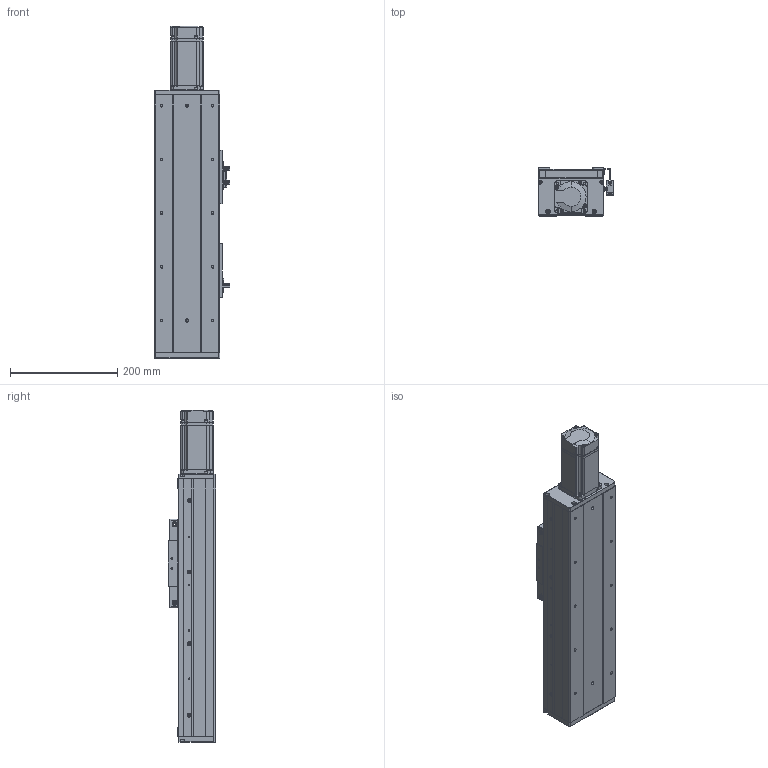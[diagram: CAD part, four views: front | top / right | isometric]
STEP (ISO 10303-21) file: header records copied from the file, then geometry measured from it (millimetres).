
FILE_DESCRIPTION (( 'STEP AP203' ), '1' );
FILE_NAME ('RY120F-L1620-300-MK.SLDASM_200.step', '2021-03-02T06:01:44', ( '盈信电脑' ), ( '东莞市道滘镇水果街19号' ), 'SwSTEP 2.0', 'SolidWorks 2012', '' );
FILE_SCHEMA (( 'CONFIG_CONTROL_DESIGN' ));
Length unit declared in the file: millimetre
Products named in the file (18): RY120F-臏賑輸 16蹟譫; FY120F詩湍揤踡輸; RY120F-L1620-300-MK.SLDASM_200; 滅袉蝶18-28; RY80俋离覜茼え; 672嫖萇羲壽假蚾釱; 覜茼ん672; RY120F-詩湍幗謫粣; 滅袉蝶18-24; RY120F綴裔啣(臏璃ㄘ; RY120F祥凄詩滅鳥裔; RY120F眻蟀ヶ裔啣; RY120F-臏賑輸奻釱; 15; 侂狟400W侜督萇儂; RY120F-300-倰第裔啣_200; RY120F滅鳥詩湍-300-MK_200; RY120F-300-倰第菁釱_200
Assembly tree (23 placements, depth 3):
  RY120F-L1620-300-MK.SLDASM_200
    RY120F-300-倰第菁釱_200
    RY120F-300-倰第裔啣_200  x2
    RY120F滅鳥詩湍-300-MK_200
    RY120F-臏賑輸奻釱
    侂狟400W侜督萇儂
      15
    RY120F眻蟀ヶ裔啣
    RY120F祥凄詩滅鳥裔
    滅袉蝶18-24
    RY120F綴裔啣(臏璃ㄘ
    RY120F-詩湍幗謫粣
    覜茼ん672  x3
    672嫖萇羲壽假蚾釱  x2
    RY80俋离覜茼え
    FY120F詩湍揤踡輸  x2
    RY120F-臏賑輸 16蹟譫
    滅袉蝶18-28  x2
Bounding box: 140.35 x 89 x 618.5 mm (x, y, z)
Volume: 2189291.6 mm3; surface area: 727783.9 mm2
Topology: 22 solids, 22 shells, 1849 faces, 4985 edges, 3213 vertices
Faces by surface type: plane 858, cylinder 798, cone 175, bspline 18
Entity records: 51175 total; most frequent: CARTESIAN_POINT 9161, DIRECTION 8653, ORIENTED_EDGE 8122, EDGE_CURVE 4061, AXIS2_PLACEMENT_3D 3103, VERTEX_POINT 2657, VECTOR 2447, LINE 2447
